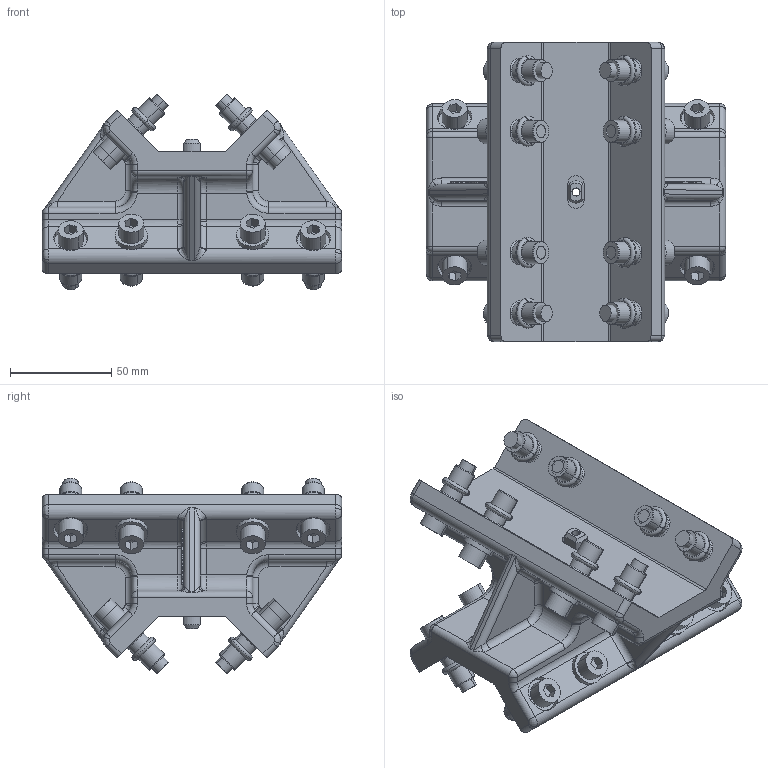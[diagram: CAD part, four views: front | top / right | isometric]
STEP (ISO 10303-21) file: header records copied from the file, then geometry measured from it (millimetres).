
FILE_DESCRIPTION(('CATIA V5 STEP Exchange'),'2;1');
FILE_NAME('C:\Users\User\Desktop\stp\EGT080.stp','2017-07-21T01:13:33+00:00',('none'),('none'),'CATIA Version 5 Release 21 GA (IN-10)','CATIA V5 STEP AP203','none');
FILE_SCHEMA(('CONFIG_CONTROL_DESIGN'));
Products named in the file (1): EGT080
Bounding box: 148 x 148 x 96.65 mm (x, y, z)
Volume: 519863.4 mm3; surface area: 126468 mm2
Topology: 52 solids, 52 shells, 2154 faces, 5584 edges, 3616 vertices
Faces by surface type: plane 1402, cylinder 388, cone 100, extrusion 100, torus 96, revolution 32, bspline 28, sphere 8
Entity records: 71088 total; most frequent: CARTESIAN_POINT 19829, ORIENTED_EDGE 11168, DIRECTION 9039, EDGE_CURVE 5584, VECTOR 4271, LINE 4171, VERTEX_POINT 3616, AXIS2_PLACEMENT_3D 2821
